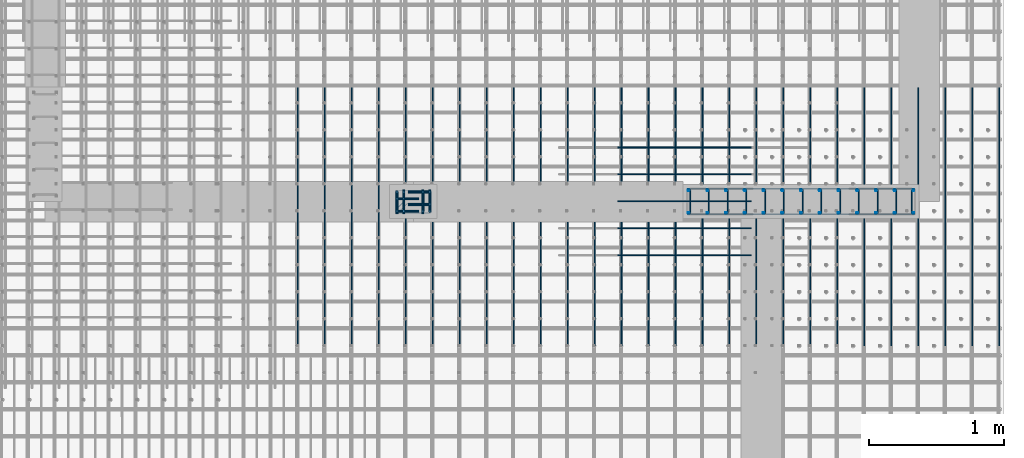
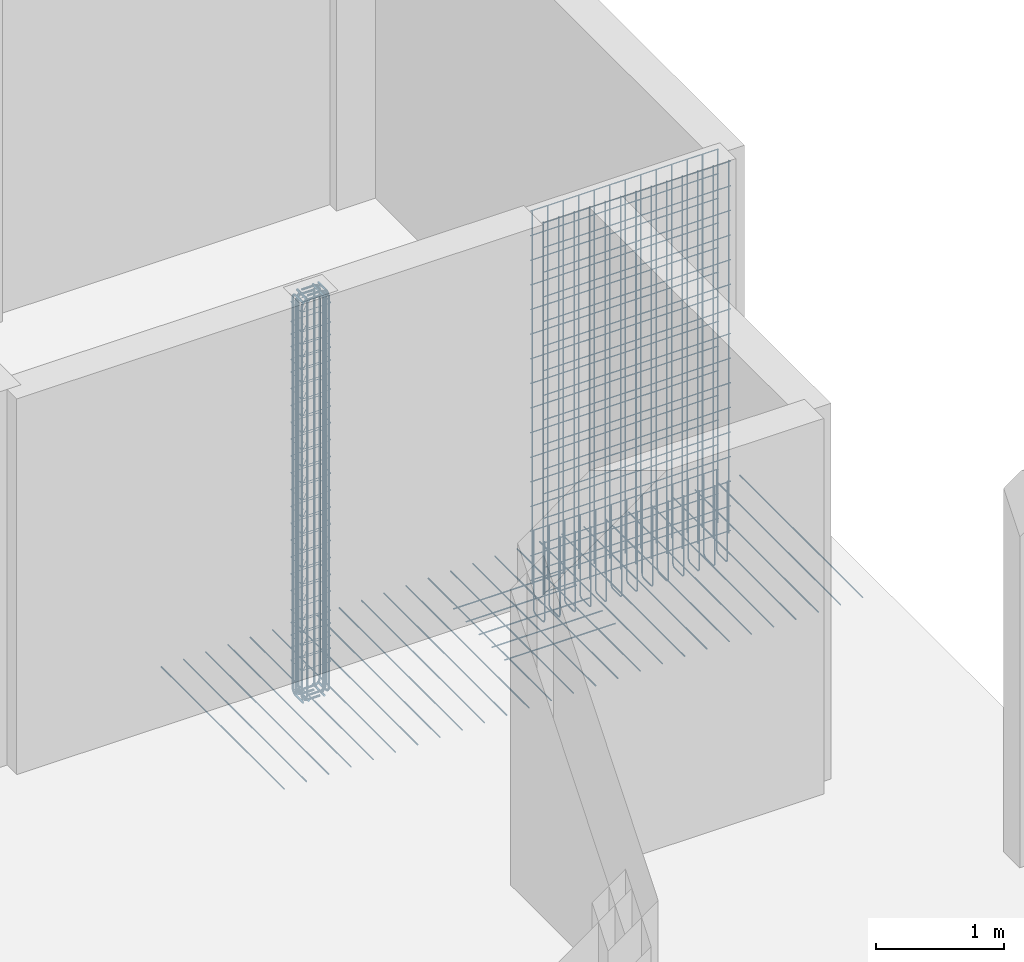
# One storey, part 7 of 8: 8 reinforcing bars.
"""IFC4 building model written with IfcOpenShell, lengths in metres."""

import ifcopenshell
import ifcopenshell.guid

model = None  # the IFC model being written
_history = None  # IfcOwnerHistory: only IFC2X3 demands one
_inside = {}  # id of a spatial element -> (the spatial element, [elements in it])
_under = {}  # id of a project, library or spatial element -> (it, [spatial elements below it])
_declared = {}  # id of a project -> (the project, [libraries it declares])
_typed = {}  # id of a type object -> (the type object, [elements of that type])
_made_of = {}  # id of a material, layer set ... -> (it, [elements and type objects made of it])


def new_model(schema):
    """Start an empty IFC model of exactly this schema.

    Asked for "IFC4X3", IfcOpenShell would pick the latest addendum, in which some entities
    have other attributes; the version numbers below select the first issue.
    IFC2X3 requires an IfcOwnerHistory on every rooted entity: one is made here for all.
    """
    global model, _history
    if schema == "IFC4X3":
        model = ifcopenshell.file(schema_version=(4, 3, 0, 0))
    else:
        model = ifcopenshell.file(schema=schema)
    _inside.clear()
    _under.clear()
    _declared.clear()
    _typed.clear()
    _made_of.clear()
    _history = None
    if model.schema == "IFC2X3":
        org = make("IfcOrganization", Name="unknown")
        user = make(
            "IfcPersonAndOrganization",
            ThePerson=make("IfcPerson", FamilyName="unknown"),
            TheOrganization=org,
        )
        app = make(
            "IfcApplication",
            ApplicationDeveloper=org,
            Version="unknown",
            ApplicationFullName="unknown",
            ApplicationIdentifier="unknown",
        )
        _history = make(
            "IfcOwnerHistory",
            OwningUser=user,
            OwningApplication=app,
            ChangeAction="ADDED",
            CreationDate=0,
        )
    return model


def make(cls, **values):
    """One entity of the class cls with the attributes given. An attribute that is None is left unset."""
    return model.create_entity(
        cls, **{name: value for name, value in values.items() if value is not None}
    )


def entity(cls, *values):
    """Any entity or typed value of the class cls, its attributes in the order of the schema. None: left unset."""
    e = model.create_entity(cls)
    for i, value in enumerate(values):
        if value is not None:
            e[i] = value
    return e


def rooted(cls, **values):
    """An entity with a GlobalId (a new one), such as an element, a storey or a relation."""
    return make(cls, GlobalId=ifcopenshell.guid.new(), OwnerHistory=_history, **values)


def si_unit(unit_type, name, prefix=None):
    """IfcSIUnit, for example si_unit("LENGTHUNIT", "METRE", prefix="MILLI")."""
    return make("IfcSIUnit", UnitType=unit_type, Prefix=prefix, Name=name)


def assignment(units):
    """IfcUnitAssignment: the units of a project."""
    return None if units is None else make("IfcUnitAssignment", Units=units)


def point(xyz):
    """IfcCartesianPoint."""
    return None if xyz is None else make("IfcCartesianPoint", Coordinates=xyz)


def direction(xyz):
    """IfcDirection."""
    return None if xyz is None else make("IfcDirection", DirectionRatios=xyz)


def frame(location, z_axis=None, x_axis=None):
    """IfcAxis2Placement3D, a coordinate frame: its origin and axes. An axis left out is left unset."""
    return make(
        "IfcAxis2Placement3D",
        Location=point(location),
        Axis=direction(z_axis),
        RefDirection=direction(x_axis),
    )


def origin_with_axes():
    """The frame at (0, 0, 0) with the z axis (0, 0, 1) and the x axis (1, 0, 0) written out."""
    return frame((0.0, 0.0, 0.0), z_axis=(0.0, 0.0, 1.0), x_axis=(1.0, 0.0, 0.0))


def place(relative_to, where):
    """IfcLocalPlacement: puts the frame where relative to a parent placement (None: the world)."""
    return make(
        "IfcLocalPlacement", PlacementRelTo=relative_to, RelativePlacement=where
    )


def context(
    kind, dimensions, precision=None, world=None, true_north=None, identifier=None
):
    """IfcGeometricRepresentationContext, for example the 3D "Model" context."""
    return make(
        "IfcGeometricRepresentationContext",
        ContextIdentifier=identifier,
        ContextType=kind,
        CoordinateSpaceDimension=dimensions,
        Precision=precision,
        WorldCoordinateSystem=world,
        TrueNorth=true_north,
    )


def project(units=None, contexts=None):
    """IfcProject with its units and contexts."""
    return rooted(
        "IfcProject",
        Name="project",
        RepresentationContexts=contexts,
        UnitsInContext=assignment(units),
    )


def spatial(cls, under=None, at=None, **own):
    """A site, building, storey or space (cls), placed at a placement, below another one or the project."""
    s = rooted(cls, ObjectPlacement=at, **own)
    if under is not None:
        _under.setdefault(under.id(), (under, []))[1].append(s)
    return s


def shape(context_of_items, identifier, shape_type, items):
    """IfcShapeRepresentation: the items that make up one representation, for example the "Body"."""
    return make(
        "IfcShapeRepresentation",
        ContextOfItems=context_of_items,
        RepresentationIdentifier=identifier,
        RepresentationType=shape_type,
        Items=items,
    )


def source(mapping_origin, context_of_items, identifier, shape_type, items):
    """IfcRepresentationMap: a shape defined once, which mapped items show again and again."""
    return make(
        "IfcRepresentationMap",
        MappingOrigin=mapping_origin,
        MappedRepresentation=shape(context_of_items, identifier, shape_type, items),
    )


def transform(
    local_origin,
    x_axis=None,
    y_axis=None,
    z_axis=None,
    scale=None,
    scale2=None,
    scale3=None,
    uniform=True,
):
    """IfcCartesianTransformationOperator3D, or its non-uniform kind. x_axis, y_axis, z_axis: its Axis1, 2, 3."""
    if uniform:
        return make(
            "IfcCartesianTransformationOperator3D",
            Axis1=direction(x_axis),
            Axis2=direction(y_axis),
            LocalOrigin=point(local_origin),
            Scale=scale,
            Axis3=direction(z_axis),
        )
    return make(
        "IfcCartesianTransformationOperator3DnonUniform",
        Axis1=direction(x_axis),
        Axis2=direction(y_axis),
        LocalOrigin=point(local_origin),
        Scale=scale,
        Axis3=direction(z_axis),
        Scale2=scale2,
        Scale3=scale3,
    )


def mapped(mapping_source, mapping_target):
    """IfcMappedItem: shows the shape of a source again, moved by a transform."""
    return make(
        "IfcMappedItem", MappingSource=mapping_source, MappingTarget=mapping_target
    )


def made_of(thing, what):
    """Note that an element or type object is made of a material, layer set ...; save() writes the relation."""
    if what is not None:
        _made_of.setdefault(what.id(), (what, []))[1].append(thing)
    return thing


def element(
    cls,
    number,
    at=None,
    inside=None,
    cuts=None,
    type_object=None,
    material=None,
    context=None,
    identifier="Body",
    shape_type=None,
    held_by="IfcProductDefinitionShape",
    body=None,
    shapes=None,
    **own,
):
    """One element of the class cls, such as IfcWall. Its Tag is "e" and its number.

    at: its placement. inside: the storey or other place that contains it. cuts: it is an
    opening in that element (IfcRelVoidsElement). A single representation is given by context,
    identifier, shape_type and body (its items); several are given by shapes. held_by: the class
    of the entity that holds the representations. save() writes the other relations.
    """
    e = rooted(cls, Tag="e%d" % number, ObjectPlacement=at, **own)
    if body is not None:
        shapes = [shape(context, identifier, shape_type, body)]
    if shapes is not None:
        e.Representation = make(held_by, Representations=shapes)
    if inside is not None:
        _inside.setdefault(inside.id(), (inside, []))[1].append(e)
    if cuts is not None:
        rooted(
            "IfcRelVoidsElement", RelatingBuildingElement=cuts, RelatedOpeningElement=e
        )
    if type_object is not None:
        _typed.setdefault(type_object.id(), (type_object, []))[1].append(e)
    return made_of(e, material)


def aggregate(whole, parts):
    """IfcRelAggregates: a whole, such as a stair, and the parts it consists of."""
    return rooted("IfcRelAggregates", RelatingObject=whole, RelatedObjects=parts)


def save(model, path):
    """Write the relations noted so far, then the file.

    IfcRelAggregates (storeys below a building ...), IfcRelContainedInSpatialStructure (elements
    in a storey), IfcRelDefinesByType, IfcRelAssociatesMaterial and IfcRelDeclares: one each for
    every whole, place, type object, material and project.
    """
    for whole, parts in _under.values():
        aggregate(whole, parts)
    for where, things in _inside.values():
        rooted(
            "IfcRelContainedInSpatialStructure",
            RelatedElements=things,
            RelatingStructure=where,
        )
    for kind, things in _typed.values():
        rooted("IfcRelDefinesByType", RelatedObjects=things, RelatingType=kind)
    for what, things in _made_of.values():
        rooted("IfcRelAssociatesMaterial", RelatedObjects=things, RelatingMaterial=what)
    for by, libraries in _declared.values():
        rooted("IfcRelDeclares", RelatingContext=by, RelatedDefinitions=libraries)
    model.write(path)


model = new_model("IFC4")

# Units and contexts
model_context = context("Model", 3, precision=1e-05, world=origin_with_axes())
ifc_project = project(units=[si_unit("LENGTHUNIT", "METRE"), si_unit("AREAUNIT", "SQUARE_METRE"), si_unit("VOLUMEUNIT", "CUBIC_METRE"), si_unit("MASSUNIT", "GRAM", prefix="KILO"), si_unit("TIMEUNIT", "SECOND"), si_unit("PLANEANGLEUNIT", "RADIAN"), si_unit("SOLIDANGLEUNIT", "STERADIAN"), si_unit("THERMODYNAMICTEMPERATUREUNIT", "DEGREE_CELSIUS")], contexts=[model_context])

# Site, building, storey
placement_1 = place(None, origin_with_axes())
site = spatial("IfcSite", under=ifc_project, at=placement_1, Name="Italia", CompositionType="ELEMENT")
building = spatial("IfcBuilding", under=site, at=placement_1, Name="Abitazione", CompositionType="ELEMENT")
storey = spatial("IfcBuildingStorey", under=building, at=placement_1, Name="Storey 0", CompositionType="ELEMENT", Elevation=0.0)

# Reinforcing bars
shared_shape_1 = source(origin_with_axes(), model_context, "Body", "AdvancedSweptSolid", [
    entity("IfcSweptDiskSolid", entity("IfcIndexedPolyCurve", entity("IfcCartesianPointList3D", [[14.569, 6.024, 0.0], [14.569, 6.024, 3.545]]), [entity("IfcLineIndex", [1, 2])], False), 0.006),
])
placement_2 = place(placement_1, origin_with_axes())
reinforcing_bar_1_placement = place(placement_2, origin_with_axes())
element("IfcReinforcingBar", 1, at=reinforcing_bar_1_placement, inside=storey, BarLength=3.545, CrossSectionArea=0.0001131, NominalDiameter=0.012, context=model_context, shape_type="MappedRepresentation", body=[
    mapped(shared_shape_1, transform((-0.834001, 0.0, 0.0), x_axis=(1.0, 0.0, 0.0), y_axis=(0.0, 1.0, 0.0), z_axis=(0.0, 0.0, 1.0), scale=1.0)),
    mapped(shared_shape_1, transform((-0.695001, -0.168, 0.0), x_axis=(1.0, 0.0, 0.0), y_axis=(0.0, 1.0, 0.0), z_axis=(0.0, 0.0, 1.0), scale=1.0)),
    mapped(shared_shape_1, transform((-0.417001, -0.168, 0.0), x_axis=(1.0, 0.0, 0.0), y_axis=(0.0, 1.0, 0.0), z_axis=(0.0, 0.0, 1.0), scale=1.0)),
    mapped(shared_shape_1, transform((-0.556001, -0.168, 0.0), x_axis=(1.0, 0.0, 0.0), y_axis=(0.0, 1.0, 0.0), z_axis=(0.0, 0.0, 1.0), scale=1.0)),
    mapped(shared_shape_1, transform((-0.556001, 0.0, 0.0), x_axis=(1.0, 0.0, 0.0), y_axis=(0.0, 1.0, 0.0), z_axis=(0.0, 0.0, 1.0), scale=1.0)),
    mapped(shared_shape_1, transform((-0.695001, 0.0, 0.0), x_axis=(1.0, 0.0, 0.0), y_axis=(0.0, 1.0, 0.0), z_axis=(0.0, 0.0, 1.0), scale=1.0)),
    mapped(shared_shape_1, transform((-0.417001, 0.0, 0.0), x_axis=(1.0, 0.0, 0.0), y_axis=(0.0, 1.0, 0.0), z_axis=(0.0, 0.0, 1.0), scale=1.0)),
    mapped(shared_shape_1, transform((-0.278001, -0.168, 0.0), x_axis=(1.0, 0.0, 0.0), y_axis=(0.0, 1.0, 0.0), z_axis=(0.0, 0.0, 1.0), scale=1.0)),
    mapped(shared_shape_1, transform((0.0, -0.168, 0.0), x_axis=(1.0, 0.0, 0.0), y_axis=(0.0, 1.0, 0.0), z_axis=(0.0, 0.0, 1.0), scale=1.0)),
    mapped(shared_shape_1, transform((-0.139001, -0.168, 0.0), x_axis=(1.0, 0.0, 0.0), y_axis=(0.0, 1.0, 0.0), z_axis=(0.0, 0.0, 1.0), scale=1.0)),
    mapped(shared_shape_1, transform((-0.139001, 0.0, 0.0), x_axis=(1.0, 0.0, 0.0), y_axis=(0.0, 1.0, 0.0), z_axis=(0.0, 0.0, 1.0), scale=1.0)),
    mapped(shared_shape_1, transform((-0.278001, 0.0, 0.0), x_axis=(1.0, 0.0, 0.0), y_axis=(0.0, 1.0, 0.0), z_axis=(0.0, 0.0, 1.0), scale=1.0)),
    mapped(shared_shape_1, transform((0.0, 0.0, 0.0), x_axis=(1.0, 0.0, 0.0), y_axis=(0.0, 1.0, 0.0), z_axis=(0.0, 0.0, 1.0), scale=1.0)),
    mapped(shared_shape_1, transform((-1.668, -0.168, 0.0), x_axis=(1.0, 0.0, 0.0), y_axis=(0.0, 1.0, 0.0), z_axis=(0.0, 0.0, 1.0), scale=1.0)),
    mapped(shared_shape_1, transform((-1.39, -0.168, 0.0), x_axis=(1.0, 0.0, 0.0), y_axis=(0.0, 1.0, 0.0), z_axis=(0.0, 0.0, 1.0), scale=1.0)),
    mapped(shared_shape_1, transform((-1.529, -0.168, 0.0), x_axis=(1.0, 0.0, 0.0), y_axis=(0.0, 1.0, 0.0), z_axis=(0.0, 0.0, 1.0), scale=1.0)),
    mapped(shared_shape_1, transform((-1.529, 0.0, 0.0), x_axis=(1.0, 0.0, 0.0), y_axis=(0.0, 1.0, 0.0), z_axis=(0.0, 0.0, 1.0), scale=1.0)),
    mapped(shared_shape_1, transform((-1.668, 0.0, 0.0), x_axis=(1.0, 0.0, 0.0), y_axis=(0.0, 1.0, 0.0), z_axis=(0.0, 0.0, 1.0), scale=1.0)),
    mapped(shared_shape_1, transform((-1.39, 0.0, 0.0), x_axis=(1.0, 0.0, 0.0), y_axis=(0.0, 1.0, 0.0), z_axis=(0.0, 0.0, 1.0), scale=1.0)),
    mapped(shared_shape_1, transform((-1.251, -0.168, 0.0), x_axis=(1.0, 0.0, 0.0), y_axis=(0.0, 1.0, 0.0), z_axis=(0.0, 0.0, 1.0), scale=1.0)),
    mapped(shared_shape_1, transform((-0.973001, -0.168, 0.0), x_axis=(1.0, 0.0, 0.0), y_axis=(0.0, 1.0, 0.0), z_axis=(0.0, 0.0, 1.0), scale=1.0)),
    mapped(shared_shape_1, transform((-1.112, -0.168, 0.0), x_axis=(1.0, 0.0, 0.0), y_axis=(0.0, 1.0, 0.0), z_axis=(0.0, 0.0, 1.0), scale=1.0)),
    mapped(shared_shape_1, transform((-1.112, 0.0, 0.0), x_axis=(1.0, 0.0, 0.0), y_axis=(0.0, 1.0, 0.0), z_axis=(0.0, 0.0, 1.0), scale=1.0)),
    mapped(shared_shape_1, transform((-1.251, 0.0, 0.0), x_axis=(1.0, 0.0, 0.0), y_axis=(0.0, 1.0, 0.0), z_axis=(0.0, 0.0, 1.0), scale=1.0)),
    mapped(shared_shape_1, transform((-0.973001, 0.0, 0.0), x_axis=(1.0, 0.0, 0.0), y_axis=(0.0, 1.0, 0.0), z_axis=(0.0, 0.0, 1.0), scale=1.0)),
    mapped(shared_shape_1, transform((-0.834001, -0.168, 0.0), x_axis=(1.0, 0.0, 0.0), y_axis=(0.0, 1.0, 0.0), z_axis=(0.0, 0.0, 1.0), scale=1.0)),
])
shared_shape_2 = source(origin_with_axes(), model_context, "Body", "AdvancedSweptSolid", [
    entity("IfcSweptDiskSolid", entity("IfcIndexedPolyCurve", entity("IfcCartesianPointList3D", [[14.557, 6.024, 0.5], [14.557, 6.024, -0.245], [14.557, 6.02172, -0.256481], [14.557, 6.01521, -0.266213], [14.557, 6.00548, -0.272716], [14.557, 5.994, -0.275], [14.557, 5.924, -0.275]]), [entity("IfcLineIndex", [1, 2]), entity("IfcLineIndex", [2, 3]), entity("IfcLineIndex", [3, 4]), entity("IfcLineIndex", [4, 5]), entity("IfcLineIndex", [5, 6]), entity("IfcLineIndex", [6, 7])], False), 0.006),
])
reinforcing_bar_2_placement = place(placement_2, origin_with_axes())
element("IfcReinforcingBar", 2, at=reinforcing_bar_2_placement, inside=storey, BarLength=0.861822, CrossSectionArea=0.0001131, NominalDiameter=0.012, context=model_context, shape_type="MappedRepresentation", body=[
    mapped(shared_shape_2, transform((-0.809999, 0.0, 0.0), x_axis=(1.0, 0.0, 0.0), y_axis=(0.0, 1.0, 0.0), z_axis=(0.0, 0.0, 1.0), scale=1.0)),
    mapped(shared_shape_2, transform((28.443, 11.88, 0.0), x_axis=(-1.0, 0.0, 0.0), y_axis=(0.0, -1.0, 0.0), z_axis=(0.0, 0.0, 1.0), scale=1.0)),
    mapped(shared_shape_2, transform((28.721, 11.88, 0.0), x_axis=(-1.0, 0.0, 0.0), y_axis=(0.0, -1.0, 0.0), z_axis=(0.0, 0.0, 1.0), scale=1.0)),
    mapped(shared_shape_2, transform((28.582, 11.88, 0.0), x_axis=(-1.0, 0.0, 0.0), y_axis=(0.0, -1.0, 0.0), z_axis=(0.0, 0.0, 1.0), scale=1.0)),
    mapped(shared_shape_2, transform((-0.532, 0.0, 0.0), x_axis=(1.0, 0.0, 0.0), y_axis=(0.0, 1.0, 0.0), z_axis=(0.0, 0.0, 1.0), scale=1.0)),
    mapped(shared_shape_2, transform((-0.671, 0.0, 0.0), x_axis=(1.0, 0.0, 0.0), y_axis=(0.0, 1.0, 0.0), z_axis=(0.0, 0.0, 1.0), scale=1.0)),
    mapped(shared_shape_2, transform((-0.393, 0.0, 0.0), x_axis=(1.0, 0.0, 0.0), y_axis=(0.0, 1.0, 0.0), z_axis=(0.0, 0.0, 1.0), scale=1.0)),
    mapped(shared_shape_2, transform((28.86, 11.88, 0.0), x_axis=(-1.0, 0.0, 0.0), y_axis=(0.0, -1.0, 0.0), z_axis=(0.0, 0.0, 1.0), scale=1.0)),
    mapped(shared_shape_2, transform((29.114, 11.88, 0.0), x_axis=(-1.0, 0.0, 0.0), y_axis=(0.0, -1.0, 0.0), z_axis=(0.0, 0.0, 1.0), scale=1.0)),
    mapped(shared_shape_2, transform((28.999, 11.88, 0.0), x_axis=(-1.0, 0.0, 0.0), y_axis=(0.0, -1.0, 0.0), z_axis=(0.0, 0.0, 1.0), scale=1.0)),
    mapped(shared_shape_2, transform((-0.115, 0.0, 0.0), x_axis=(1.0, 0.0, 0.0), y_axis=(0.0, 1.0, 0.0), z_axis=(0.0, 0.0, 1.0), scale=1.0)),
    mapped(shared_shape_2, transform((-0.254, 0.0, 0.0), x_axis=(1.0, 0.0, 0.0), y_axis=(0.0, 1.0, 0.0), z_axis=(0.0, 0.0, 1.0), scale=1.0)),
    mapped(shared_shape_2, transform((0.0, 0.0, 0.0), x_axis=(1.0, 0.0, 0.0), y_axis=(0.0, 1.0, 0.0), z_axis=(0.0, 0.0, 1.0), scale=1.0)),
    mapped(shared_shape_2, transform((27.47, 11.88, 0.0), x_axis=(-1.0, 0.0, 0.0), y_axis=(0.0, -1.0, 0.0), z_axis=(0.0, 0.0, 1.0), scale=1.0)),
    mapped(shared_shape_2, transform((27.748, 11.88, 0.0), x_axis=(-1.0, 0.0, 0.0), y_axis=(0.0, -1.0, 0.0), z_axis=(0.0, 0.0, 1.0), scale=1.0)),
    mapped(shared_shape_2, transform((27.609, 11.88, 0.0), x_axis=(-1.0, 0.0, 0.0), y_axis=(0.0, -1.0, 0.0), z_axis=(0.0, 0.0, 1.0), scale=1.0)),
    mapped(shared_shape_2, transform((-1.505, 0.0, 0.0), x_axis=(1.0, 0.0, 0.0), y_axis=(0.0, 1.0, 0.0), z_axis=(0.0, 0.0, 1.0), scale=1.0)),
    mapped(shared_shape_2, transform((-1.644, 0.0, 0.0), x_axis=(1.0, 0.0, 0.0), y_axis=(0.0, 1.0, 0.0), z_axis=(0.0, 0.0, 1.0), scale=1.0)),
    mapped(shared_shape_2, transform((-1.366, 0.0, 0.0), x_axis=(1.0, 0.0, 0.0), y_axis=(0.0, 1.0, 0.0), z_axis=(0.0, 0.0, 1.0), scale=1.0)),
    mapped(shared_shape_2, transform((27.887, 11.88, 0.0), x_axis=(-1.0, 0.0, 0.0), y_axis=(0.0, -1.0, 0.0), z_axis=(0.0, 0.0, 1.0), scale=1.0)),
    mapped(shared_shape_2, transform((28.165, 11.88, 0.0), x_axis=(-1.0, 0.0, 0.0), y_axis=(0.0, -1.0, 0.0), z_axis=(0.0, 0.0, 1.0), scale=1.0)),
    mapped(shared_shape_2, transform((28.026, 11.88, 0.0), x_axis=(-1.0, 0.0, 0.0), y_axis=(0.0, -1.0, 0.0), z_axis=(0.0, 0.0, 1.0), scale=1.0)),
    mapped(shared_shape_2, transform((-1.088, 0.0, 0.0), x_axis=(1.0, 0.0, 0.0), y_axis=(0.0, 1.0, 0.0), z_axis=(0.0, 0.0, 1.0), scale=1.0)),
    mapped(shared_shape_2, transform((-1.227, 0.0, 0.0), x_axis=(1.0, 0.0, 0.0), y_axis=(0.0, 1.0, 0.0), z_axis=(0.0, 0.0, 1.0), scale=1.0)),
    mapped(shared_shape_2, transform((-0.948999, 0.0, 0.0), x_axis=(1.0, 0.0, 0.0), y_axis=(0.0, 1.0, 0.0), z_axis=(0.0, 0.0, 1.0), scale=1.0)),
    mapped(shared_shape_2, transform((28.304, 11.88, 0.0), x_axis=(-1.0, 0.0, 0.0), y_axis=(0.0, -1.0, 0.0), z_axis=(0.0, 0.0, 1.0), scale=1.0)),
])
shared_shape_3 = source(origin_with_axes(), model_context, "Body", "AdvancedSweptSolid", [
    entity("IfcSweptDiskSolid", entity("IfcIndexedPolyCurve", entity("IfcCartesianPointList3D", [[14.58, 5.845, 0.03], [12.89, 5.845, 0.03]]), [entity("IfcLineIndex", [1, 2])], False), 0.005),
])
reinforcing_bar_3_placement = place(placement_2, origin_with_axes())
element("IfcReinforcingBar", 3, at=reinforcing_bar_3_placement, inside=storey, BarLength=1.69, CrossSectionArea=7.854e-05, NominalDiameter=0.01, context=model_context, shape_type="MappedRepresentation", body=[
    mapped(shared_shape_3, transform((0.0, 0.0, 2.34), x_axis=(1.0, 0.0, 0.0), y_axis=(0.0, 1.0, 0.0), z_axis=(0.0, 0.0, 1.0), scale=1.0)),
    mapped(shared_shape_3, transform((0.0, 0.0, 2.574), x_axis=(1.0, 0.0, 0.0), y_axis=(0.0, 1.0, 0.0), z_axis=(0.0, 0.0, 1.0), scale=1.0)),
    mapped(shared_shape_3, transform((0.0, 0.0, 1.872), x_axis=(1.0, 0.0, 0.0), y_axis=(0.0, 1.0, 0.0), z_axis=(0.0, 0.0, 1.0), scale=1.0)),
    mapped(shared_shape_3, transform((0.0, 0.0, 2.106), x_axis=(1.0, 0.0, 0.0), y_axis=(0.0, 1.0, 0.0), z_axis=(0.0, 0.0, 1.0), scale=1.0)),
    mapped(shared_shape_3, transform((0.0, 0.0, 3.276), x_axis=(1.0, 0.0, 0.0), y_axis=(0.0, 1.0, 0.0), z_axis=(0.0, 0.0, 1.0), scale=1.0)),
    mapped(shared_shape_3, transform((0.0, 0.0, 3.51), x_axis=(1.0, 0.0, 0.0), y_axis=(0.0, 1.0, 0.0), z_axis=(0.0, 0.0, 1.0), scale=1.0)),
    mapped(shared_shape_3, transform((0.0, 0.0, 2.808), x_axis=(1.0, 0.0, 0.0), y_axis=(0.0, 1.0, 0.0), z_axis=(0.0, 0.0, 1.0), scale=1.0)),
    mapped(shared_shape_3, transform((0.0, 0.0, 3.042), x_axis=(1.0, 0.0, 0.0), y_axis=(0.0, 1.0, 0.0), z_axis=(0.0, 0.0, 1.0), scale=1.0)),
    mapped(shared_shape_3, transform((0.0, 0.0, 0.468), x_axis=(1.0, 0.0, 0.0), y_axis=(0.0, 1.0, 0.0), z_axis=(0.0, 0.0, 1.0), scale=1.0)),
    mapped(shared_shape_3, transform((0.0, 0.0, 0.702), x_axis=(1.0, 0.0, 0.0), y_axis=(0.0, 1.0, 0.0), z_axis=(0.0, 0.0, 1.0), scale=1.0)),
    mapped(shared_shape_3, transform((27.47, 11.88, 0.0), x_axis=(-1.0, 0.0, 0.0), y_axis=(0.0, -1.0, 0.0), z_axis=(0.0, 0.0, 1.0), scale=1.0)),
    mapped(shared_shape_3, transform((0.0, 0.0, 0.0), x_axis=(1.0, 0.0, 0.0), y_axis=(0.0, 1.0, 0.0), z_axis=(0.0, 0.0, 1.0), scale=1.0)),
    mapped(shared_shape_3, transform((27.47, 11.88, 0.234), x_axis=(-1.0, 0.0, 0.0), y_axis=(0.0, -1.0, 0.0), z_axis=(0.0, 0.0, 1.0), scale=1.0)),
    mapped(shared_shape_3, transform((0.0, 0.0, 0.234), x_axis=(1.0, 0.0, 0.0), y_axis=(0.0, 1.0, 0.0), z_axis=(0.0, 0.0, 1.0), scale=1.0)),
    mapped(shared_shape_3, transform((27.47, 11.88, 0.468), x_axis=(-1.0, 0.0, 0.0), y_axis=(0.0, -1.0, 0.0), z_axis=(0.0, 0.0, 1.0), scale=1.0)),
    mapped(shared_shape_3, transform((27.47, 11.88, 0.702), x_axis=(-1.0, 0.0, 0.0), y_axis=(0.0, -1.0, 0.0), z_axis=(0.0, 0.0, 1.0), scale=1.0)),
    mapped(shared_shape_3, transform((0.0, 0.0, 1.404), x_axis=(1.0, 0.0, 0.0), y_axis=(0.0, 1.0, 0.0), z_axis=(0.0, 0.0, 1.0), scale=1.0)),
    mapped(shared_shape_3, transform((0.0, 0.0, 1.638), x_axis=(1.0, 0.0, 0.0), y_axis=(0.0, 1.0, 0.0), z_axis=(0.0, 0.0, 1.0), scale=1.0)),
    mapped(shared_shape_3, transform((27.47, 11.88, 0.936), x_axis=(-1.0, 0.0, 0.0), y_axis=(0.0, -1.0, 0.0), z_axis=(0.0, 0.0, 1.0), scale=1.0)),
    mapped(shared_shape_3, transform((0.0, 0.0, 0.936), x_axis=(1.0, 0.0, 0.0), y_axis=(0.0, 1.0, 0.0), z_axis=(0.0, 0.0, 1.0), scale=1.0)),
    mapped(shared_shape_3, transform((27.47, 11.88, 1.17), x_axis=(-1.0, 0.0, 0.0), y_axis=(0.0, -1.0, 0.0), z_axis=(0.0, 0.0, 1.0), scale=1.0)),
    mapped(shared_shape_3, transform((0.0, 0.0, 1.17), x_axis=(1.0, 0.0, 0.0), y_axis=(0.0, 1.0, 0.0), z_axis=(0.0, 0.0, 1.0), scale=1.0)),
    mapped(shared_shape_3, transform((27.47, 11.88, 2.34), x_axis=(-1.0, 0.0, 0.0), y_axis=(0.0, -1.0, 0.0), z_axis=(0.0, 0.0, 1.0), scale=1.0)),
    mapped(shared_shape_3, transform((27.47, 11.88, 2.574), x_axis=(-1.0, 0.0, 0.0), y_axis=(0.0, -1.0, 0.0), z_axis=(0.0, 0.0, 1.0), scale=1.0)),
    mapped(shared_shape_3, transform((27.47, 11.88, 1.872), x_axis=(-1.0, 0.0, 0.0), y_axis=(0.0, -1.0, 0.0), z_axis=(0.0, 0.0, 1.0), scale=1.0)),
    mapped(shared_shape_3, transform((27.47, 11.88, 2.106), x_axis=(-1.0, 0.0, 0.0), y_axis=(0.0, -1.0, 0.0), z_axis=(0.0, 0.0, 1.0), scale=1.0)),
    mapped(shared_shape_3, transform((27.47, 11.88, 3.276), x_axis=(-1.0, 0.0, 0.0), y_axis=(0.0, -1.0, 0.0), z_axis=(0.0, 0.0, 1.0), scale=1.0)),
    mapped(shared_shape_3, transform((27.47, 11.88, 3.51), x_axis=(-1.0, 0.0, 0.0), y_axis=(0.0, -1.0, 0.0), z_axis=(0.0, 0.0, 1.0), scale=1.0)),
    mapped(shared_shape_3, transform((27.47, 11.88, 2.808), x_axis=(-1.0, 0.0, 0.0), y_axis=(0.0, -1.0, 0.0), z_axis=(0.0, 0.0, 1.0), scale=1.0)),
    mapped(shared_shape_3, transform((27.47, 11.88, 3.042), x_axis=(-1.0, 0.0, 0.0), y_axis=(0.0, -1.0, 0.0), z_axis=(0.0, 0.0, 1.0), scale=1.0)),
    mapped(shared_shape_3, transform((27.47, 11.88, 1.404), x_axis=(-1.0, 0.0, 0.0), y_axis=(0.0, -1.0, 0.0), z_axis=(0.0, 0.0, 1.0), scale=1.0)),
    mapped(shared_shape_3, transform((27.47, 11.88, 1.638), x_axis=(-1.0, 0.0, 0.0), y_axis=(0.0, -1.0, 0.0), z_axis=(0.0, 0.0, 1.0), scale=1.0)),
])
shared_shape_4 = source(origin_with_axes(), model_context, "Body", "AdvancedSweptSolid", [
    entity("IfcSweptDiskSolid", entity("IfcIndexedPolyCurve", entity("IfcCartesianPointList3D", [[10.901, 5.869, -0.265], [10.789, 5.869, -0.265], [10.7699, 5.869, -0.261194], [10.7536, 5.869, -0.250355], [10.7428, 5.869, -0.234134], [10.739, 5.869, -0.215], [10.739, 5.869, 0.8175]]), [entity("IfcLineIndex", [1, 2]), entity("IfcLineIndex", [2, 3]), entity("IfcLineIndex", [3, 4]), entity("IfcLineIndex", [4, 5]), entity("IfcLineIndex", [5, 6]), entity("IfcLineIndex", [6, 7])], False), 0.01),
])
reinforcing_bar_4_placement = place(placement_2, origin_with_axes())
element("IfcReinforcingBar", 4, at=reinforcing_bar_4_placement, inside=storey, BarLength=1.22254, CrossSectionArea=0.00031416, NominalDiameter=0.02, context=model_context, shape_type="MappedRepresentation", body=[
    mapped(shared_shape_4, transform((21.72, 11.788, 0.0), x_axis=(-1.0, 0.0, 0.0), y_axis=(0.0, -1.0, 0.0), z_axis=(0.0, 0.0, 1.0), scale=1.0)),
    mapped(shared_shape_4, transform((21.72, 11.88, 0.0), x_axis=(-1.0, 0.0, 0.0), y_axis=(0.0, -1.0, 0.0), z_axis=(0.0, 0.0, 1.0), scale=1.0)),
    mapped(shared_shape_4, transform((16.8, -4.87, 0.0), x_axis=(0.0, 1.0, 0.0), y_axis=(-1.0, 0.0, 0.0), z_axis=(0.0, 0.0, 1.0), scale=1.0)),
    mapped(shared_shape_4, transform((16.85, -4.87, 0.0), x_axis=(0.0, 1.0, 0.0), y_axis=(-1.0, 0.0, 0.0), z_axis=(0.0, 0.0, 1.0), scale=1.0)),
    mapped(shared_shape_4, transform((0.0, 0.0, 0.0), x_axis=(1.0, 0.0, 0.0), y_axis=(0.0, 1.0, 0.0), z_axis=(0.0, 0.0, 1.0), scale=1.0)),
    mapped(shared_shape_4, transform((16.658, -4.87, 0.0), x_axis=(0.0, 1.0, 0.0), y_axis=(-1.0, 0.0, 0.0), z_axis=(0.0, 0.0, 1.0), scale=1.0)),
    mapped(shared_shape_4, transform((4.87, 16.75, 0.0), x_axis=(0.0, -1.0, 0.0), y_axis=(1.0, 0.0, 0.0), z_axis=(0.0, 0.0, 1.0), scale=1.0)),
    mapped(shared_shape_4, transform((0.0, 0.092, 0.0), x_axis=(1.0, 0.0, 0.0), y_axis=(0.0, 1.0, 0.0), z_axis=(0.0, 0.0, 1.0), scale=1.0)),
    mapped(shared_shape_4, transform((5.062, 16.75, 0.0), x_axis=(0.0, -1.0, 0.0), y_axis=(1.0, 0.0, 0.0), z_axis=(0.0, 0.0, 1.0), scale=1.0)),
    mapped(shared_shape_4, transform((4.92, 16.75, 0.0), x_axis=(0.0, -1.0, 0.0), y_axis=(1.0, 0.0, 0.0), z_axis=(0.0, 0.0, 1.0), scale=1.0)),
])
shared_shape_5 = source(origin_with_axes(), model_context, "Body", "AdvancedSweptSolid", [
    entity("IfcSweptDiskSolid", entity("IfcIndexedPolyCurve", entity("IfcCartesianPointList3D", [[10.739, 5.869, 0.0], [10.739, 5.869, 3.485], [10.7428, 5.869, 3.50413], [10.7536, 5.869, 3.52036], [10.7699, 5.869, 3.53119], [10.789, 5.869, 3.535], [10.901, 5.869, 3.535]]), [entity("IfcLineIndex", [1, 2]), entity("IfcLineIndex", [2, 3]), entity("IfcLineIndex", [3, 4]), entity("IfcLineIndex", [4, 5]), entity("IfcLineIndex", [5, 6]), entity("IfcLineIndex", [6, 7])], False), 0.01),
])
reinforcing_bar_5_placement = place(placement_2, origin_with_axes())
element("IfcReinforcingBar", 5, at=reinforcing_bar_5_placement, inside=storey, BarLength=3.67504, CrossSectionArea=0.00031416, NominalDiameter=0.02, context=model_context, shape_type="MappedRepresentation", body=[
    mapped(shared_shape_5, transform((21.72, 11.788, 0.0), x_axis=(-1.0, 0.0, 0.0), y_axis=(0.0, -1.0, 0.0), z_axis=(0.0, 0.0, 1.0), scale=1.0)),
    mapped(shared_shape_5, transform((21.72, 11.88, 0.0), x_axis=(-1.0, 0.0, 0.0), y_axis=(0.0, -1.0, 0.0), z_axis=(0.0, 0.0, 1.0), scale=1.0)),
    mapped(shared_shape_5, transform((16.8, -4.87, 0.0), x_axis=(0.0, 1.0, 0.0), y_axis=(-1.0, 0.0, 0.0), z_axis=(0.0, 0.0, 1.0), scale=1.0)),
    mapped(shared_shape_5, transform((16.85, -4.87, 0.0), x_axis=(0.0, 1.0, 0.0), y_axis=(-1.0, 0.0, 0.0), z_axis=(0.0, 0.0, 1.0), scale=1.0)),
    mapped(shared_shape_5, transform((0.0, 0.0, 0.0), x_axis=(1.0, 0.0, 0.0), y_axis=(0.0, 1.0, 0.0), z_axis=(0.0, 0.0, 1.0), scale=1.0)),
    mapped(shared_shape_5, transform((16.658, -4.87, 0.0), x_axis=(0.0, 1.0, 0.0), y_axis=(-1.0, 0.0, 0.0), z_axis=(0.0, 0.0, 1.0), scale=1.0)),
    mapped(shared_shape_5, transform((4.87, 16.75, 0.0), x_axis=(0.0, -1.0, 0.0), y_axis=(1.0, 0.0, 0.0), z_axis=(0.0, 0.0, 1.0), scale=1.0)),
    mapped(shared_shape_5, transform((0.0, 0.0920005, 0.0), x_axis=(1.0, 0.0, 0.0), y_axis=(0.0, 1.0, 0.0), z_axis=(0.0, 0.0, 1.0), scale=1.0)),
    mapped(shared_shape_5, transform((5.062, 16.75, 0.0), x_axis=(0.0, -1.0, 0.0), y_axis=(1.0, 0.0, 0.0), z_axis=(0.0, 0.0, 1.0), scale=1.0)),
    mapped(shared_shape_5, transform((4.92, 16.75, 0.0), x_axis=(0.0, -1.0, 0.0), y_axis=(1.0, 0.0, 0.0), z_axis=(0.0, 0.0, 1.0), scale=1.0)),
])
shared_shape_6 = source(origin_with_axes(), model_context, "Body", "AdvancedSweptSolid", [
    entity("IfcSweptDiskSolid", entity("IfcIndexedPolyCurve", entity("IfcCartesianPointList3D", [[10.8162, 5.92671, 0.041], [10.7484, 5.85893, 0.040347], [10.7414, 5.856, 0.0402948], [10.736, 5.856, 0.0402583], [10.7322, 5.85676, 0.0402318], [10.7289, 5.85893, 0.0402052], [10.7268, 5.86217, 0.0401786], [10.726, 5.866, 0.040152], [10.726, 6.014, 0.0391438], [10.7268, 6.01783, 0.0391172], [10.7289, 6.02107, 0.0390906], [10.7322, 6.02324, 0.039064], [10.736, 6.024, 0.0390375], [10.984, 6.024, 0.037348], [10.9878, 6.02324, 0.0373214], [10.9911, 6.02107, 0.0372948], [10.9932, 6.01783, 0.0372683], [10.994, 6.014, 0.0372417], [10.994, 5.866, 0.0362334], [10.9932, 5.86217, 0.0362069], [10.9911, 5.85893, 0.0361803], [10.9878, 5.85676, 0.0361537], [10.984, 5.856, 0.0361271], [10.736, 5.856, 0.0344377], [10.7322, 5.85676, 0.0344111], [10.7289, 5.85893, 0.0343845], [10.7268, 5.86217, 0.0343579], [10.726, 5.866, 0.0343313], [10.726, 5.87136, 0.0342948], [10.7289, 5.87843, 0.0342427], [10.7967, 5.94621, 0.0335897]]), [entity("IfcLineIndex", [1, 2]), entity("IfcLineIndex", [2, 3]), entity("IfcLineIndex", [3, 4]), entity("IfcLineIndex", [4, 5]), entity("IfcLineIndex", [5, 6]), entity("IfcLineIndex", [6, 7]), entity("IfcLineIndex", [7, 8]), entity("IfcLineIndex", [8, 9]), entity("IfcLineIndex", [9, 10]), entity("IfcLineIndex", [10, 11]), entity("IfcLineIndex", [11, 12]), entity("IfcLineIndex", [12, 13]), entity("IfcLineIndex", [13, 14]), entity("IfcLineIndex", [14, 15]), entity("IfcLineIndex", [15, 16]), entity("IfcLineIndex", [16, 17]), entity("IfcLineIndex", [17, 18]), entity("IfcLineIndex", [18, 19]), entity("IfcLineIndex", [19, 20]), entity("IfcLineIndex", [20, 21]), entity("IfcLineIndex", [21, 22]), entity("IfcLineIndex", [22, 23]), entity("IfcLineIndex", [23, 24]), entity("IfcLineIndex", [24, 25]), entity("IfcLineIndex", [25, 26]), entity("IfcLineIndex", [26, 27]), entity("IfcLineIndex", [27, 28]), entity("IfcLineIndex", [28, 29]), entity("IfcLineIndex", [29, 30]), entity("IfcLineIndex", [30, 31])], False), 0.003),
])
reinforcing_bar_6_placement = place(placement_2, origin_with_axes())
element("IfcReinforcingBar", 6, at=reinforcing_bar_6_placement, inside=storey, BarLength=1.0878, CrossSectionArea=2.8274e-05, NominalDiameter=0.006, context=model_context, shape_type="MappedRepresentation", body=[
    mapped(shared_shape_6, transform((0.0, 0.0, 1.14191), x_axis=(1.0, 0.0, 1.79629e-05), y_axis=(0.0, 1.0, -1.79082e-05), z_axis=(-1.79629e-05, 1.79082e-05, 1.0), scale=1.0)),
    mapped(shared_shape_6, transform((0.0, 0.0, 0.981912), x_axis=(1.0, 0.0, 1.79629e-05), y_axis=(0.0, 1.0, -1.79082e-05), z_axis=(-1.79629e-05, 1.79082e-05, 1.0), scale=1.0)),
    mapped(shared_shape_6, transform((0.0, 0.0, 0.821982), x_axis=(1.0, 0.0, 0.0), y_axis=(0.0, 1.0, 0.0), z_axis=(0.0, 0.0, 1.0), scale=1.0)),
    mapped(shared_shape_6, transform((0.0, 0.0, 1.62191), x_axis=(1.0, 0.0, 1.79629e-05), y_axis=(0.0, 1.0, -1.79082e-05), z_axis=(-1.79629e-05, 1.79082e-05, 1.0), scale=1.0)),
    mapped(shared_shape_6, transform((0.0, 0.0, 1.46191), x_axis=(1.0, 0.0, 1.79629e-05), y_axis=(0.0, 1.0, -1.79082e-05), z_axis=(-1.79629e-05, 1.79082e-05, 1.0), scale=1.0)),
    mapped(shared_shape_6, transform((0.0, 0.0, 1.30191), x_axis=(1.0, 0.0, 1.79629e-05), y_axis=(0.0, 1.0, -1.79082e-05), z_axis=(-1.79629e-05, 1.79082e-05, 1.0), scale=1.0)),
    mapped(shared_shape_6, transform((0.0, 0.0, 0.240017), x_axis=(1.0, 0.0, 0.0), y_axis=(0.0, 1.0, 0.0), z_axis=(0.0, 0.0, 1.0), scale=1.0)),
    mapped(shared_shape_6, transform((0.0, 0.0, 0.12), x_axis=(1.0, 0.0, 0.0), y_axis=(0.0, 1.0, 0.0), z_axis=(0.0, 0.0, 1.0), scale=1.0)),
    mapped(shared_shape_6, transform((0.0, 0.0, 0.0), x_axis=(1.0, 0.0, 0.0), y_axis=(0.0, 1.0, 0.0), z_axis=(0.0, 0.0, 1.0), scale=1.0)),
    mapped(shared_shape_6, transform((0.0, 0.0, 0.661982), x_axis=(1.0, 0.0, 0.0), y_axis=(0.0, 1.0, 0.0), z_axis=(0.0, 0.0, 1.0), scale=1.0)),
    mapped(shared_shape_6, transform((0.0, 0.0, 0.479982), x_axis=(1.0, 0.0, 0.0), y_axis=(0.0, 1.0, 0.0), z_axis=(0.0, 0.0, 1.0), scale=1.0)),
    mapped(shared_shape_6, transform((0.0, 0.0, 0.360017), x_axis=(1.0, 0.0, 0.0), y_axis=(0.0, 1.0, 0.0), z_axis=(0.0, 0.0, 1.0), scale=1.0)),
    mapped(shared_shape_6, transform((0.0, 0.0, 2.97991), x_axis=(1.0, 0.0, 1.79629e-05), y_axis=(0.0, 1.0, -1.79082e-05), z_axis=(-1.79629e-05, 1.79082e-05, 1.0), scale=1.0)),
    mapped(shared_shape_6, transform((0.0, 0.0, 2.85991), x_axis=(1.0, 0.0, 1.79629e-05), y_axis=(0.0, 1.0, -1.79082e-05), z_axis=(-1.79629e-05, 1.79082e-05, 1.0), scale=1.0)),
    mapped(shared_shape_6, transform((0.0, 0.0, 2.73991), x_axis=(1.0, 0.0, 1.79629e-05), y_axis=(0.0, 1.0, -1.79082e-05), z_axis=(-1.79629e-05, 1.79082e-05, 1.0), scale=1.0)),
    mapped(shared_shape_6, transform((0.0, 0.0, 3.40691), x_axis=(1.0, 0.0, 1.79629e-05), y_axis=(0.0, 1.0, -1.79082e-05), z_axis=(-1.79629e-05, 1.79082e-05, 1.0), scale=1.0)),
    mapped(shared_shape_6, transform((0.0, 0.0, 3.21991), x_axis=(1.0, 0.0, 1.79629e-05), y_axis=(0.0, 1.0, -1.79082e-05), z_axis=(-1.79629e-05, 1.79082e-05, 1.0), scale=1.0)),
    mapped(shared_shape_6, transform((0.0, 0.0, 3.09991), x_axis=(1.0, 0.0, 1.79629e-05), y_axis=(0.0, 1.0, -1.79082e-05), z_axis=(-1.79629e-05, 1.79082e-05, 1.0), scale=1.0)),
    mapped(shared_shape_6, transform((0.0, 0.0, 2.10191), x_axis=(1.0, 0.0, 1.79629e-05), y_axis=(0.0, 1.0, -1.79082e-05), z_axis=(-1.79629e-05, 1.79082e-05, 1.0), scale=1.0)),
    mapped(shared_shape_6, transform((0.0, 0.0, 1.94191), x_axis=(1.0, 0.0, 1.79629e-05), y_axis=(0.0, 1.0, -1.79082e-05), z_axis=(-1.79629e-05, 1.79082e-05, 1.0), scale=1.0)),
    mapped(shared_shape_6, transform((0.0, 0.0, 1.78191), x_axis=(1.0, 0.0, 1.79629e-05), y_axis=(0.0, 1.0, -1.79082e-05), z_axis=(-1.79629e-05, 1.79082e-05, 1.0), scale=1.0)),
    mapped(shared_shape_6, transform((0.0, 0.0, 2.58191), x_axis=(1.0, 0.0, 1.79629e-05), y_axis=(0.0, 1.0, -1.79082e-05), z_axis=(-1.79629e-05, 1.79082e-05, 1.0), scale=1.0)),
    mapped(shared_shape_6, transform((0.0, 0.0, 2.42191), x_axis=(1.0, 0.0, 1.79629e-05), y_axis=(0.0, 1.0, -1.79082e-05), z_axis=(-1.79629e-05, 1.79082e-05, 1.0), scale=1.0)),
    mapped(shared_shape_6, transform((0.0, 0.0, 2.26191), x_axis=(1.0, 0.0, 1.79629e-05), y_axis=(0.0, 1.0, -1.79082e-05), z_axis=(-1.79629e-05, 1.79082e-05, 1.0), scale=1.0)),
])
shared_shape_7 = source(origin_with_axes(), model_context, "Body", "AdvancedSweptSolid", [
    entity("IfcSweptDiskSolid", entity("IfcIndexedPolyCurve", entity("IfcCartesianPointList3D", [[12.3722, 5.54149, -0.246], [13.3681, 5.54149, -0.246]]), [entity("IfcLineIndex", [1, 2])], False), 0.006),
])
reinforcing_bar_7_placement = place(placement_2, origin_with_axes())
element("IfcReinforcingBar", 7, at=reinforcing_bar_7_placement, inside=storey, BarLength=0.995909, CrossSectionArea=0.0001131, NominalDiameter=0.012, context=model_context, shape_type="MappedRepresentation", body=[
    mapped(shared_shape_7, transform((0.0, 0.0, 0.0), x_axis=(1.0, 0.0, 0.0), y_axis=(0.0, 1.0, 0.0), z_axis=(0.0, 0.0, 1.0), scale=1.0)),
    mapped(shared_shape_7, transform((0.0, 0.2, 0.0), x_axis=(1.0, 0.0, 0.0), y_axis=(0.0, 1.0, 0.0), z_axis=(0.0, 0.0, 1.0), scale=1.0)),
    mapped(shared_shape_7, transform((0.0, 0.4, 0.0), x_axis=(1.0, 0.0, 0.0), y_axis=(0.0, 1.0, 0.0), z_axis=(0.0, 0.0, 1.0), scale=1.0)),
    mapped(shared_shape_7, transform((0.0, 0.599999, 0.0), x_axis=(1.0, 0.0, 0.0), y_axis=(0.0, 1.0, 0.0), z_axis=(0.0, 0.0, 1.0), scale=1.0)),
    mapped(shared_shape_7, transform((0.0, 0.799999, 0.0), x_axis=(1.0, 0.0, 0.0), y_axis=(0.0, 1.0, 0.0), z_axis=(0.0, 0.0, 1.0), scale=1.0)),
])
shared_shape_8 = source(origin_with_axes(), model_context, "Body", "AdvancedSweptSolid", [
    entity("IfcSweptDiskSolid", entity("IfcIndexedPolyCurve", entity("IfcCartesianPointList3D", [[10.0039, 4.86935, -0.234], [10.0039, 6.78526, -0.234]]), [entity("IfcLineIndex", [1, 2])], False), 0.006),
])
reinforcing_bar_8_placement = place(placement_2, origin_with_axes())
element("IfcReinforcingBar", 8, at=reinforcing_bar_8_placement, inside=storey, BarLength=1.91591, CrossSectionArea=0.0001131, NominalDiameter=0.012, context=model_context, shape_type="MappedRepresentation", body=[
    mapped(shared_shape_8, transform((0.0, 0.0, 0.0), x_axis=(1.0, 0.0, 0.0), y_axis=(0.0, 1.0, 0.0), z_axis=(0.0, 0.0, 1.0), scale=1.0)),
    mapped(shared_shape_8, transform((2.4, 0.0, 0.0), x_axis=(1.0, 0.0, 0.0), y_axis=(0.0, 1.0, 0.0), z_axis=(0.0, 0.0, 1.0), scale=1.0)),
    mapped(shared_shape_8, transform((2.2, 0.0, 0.0), x_axis=(1.0, 0.0, 0.0), y_axis=(0.0, 1.0, 0.0), z_axis=(0.0, 0.0, 1.0), scale=1.0)),
    mapped(shared_shape_8, transform((2.0, 0.0, 0.0), x_axis=(1.0, 0.0, 0.0), y_axis=(0.0, 1.0, 0.0), z_axis=(0.0, 0.0, 1.0), scale=1.0)),
    mapped(shared_shape_8, transform((1.8, 0.0, 0.0), x_axis=(1.0, 0.0, 0.0), y_axis=(0.0, 1.0, 0.0), z_axis=(0.0, 0.0, 1.0), scale=1.0)),
    mapped(shared_shape_8, transform((1.6, 0.0, 0.0), x_axis=(1.0, 0.0, 0.0), y_axis=(0.0, 1.0, 0.0), z_axis=(0.0, 0.0, 1.0), scale=1.0)),
    mapped(shared_shape_8, transform((1.4, 0.0, 0.0), x_axis=(1.0, 0.0, 0.0), y_axis=(0.0, 1.0, 0.0), z_axis=(0.0, 0.0, 1.0), scale=1.0)),
    mapped(shared_shape_8, transform((1.2, 0.0, 0.0), x_axis=(1.0, 0.0, 0.0), y_axis=(0.0, 1.0, 0.0), z_axis=(0.0, 0.0, 1.0), scale=1.0)),
    mapped(shared_shape_8, transform((0.999999, 0.0, 0.0), x_axis=(1.0, 0.0, 0.0), y_axis=(0.0, 1.0, 0.0), z_axis=(0.0, 0.0, 1.0), scale=1.0)),
    mapped(shared_shape_8, transform((0.799999, 0.0, 0.0), x_axis=(1.0, 0.0, 0.0), y_axis=(0.0, 1.0, 0.0), z_axis=(0.0, 0.0, 1.0), scale=1.0)),
    mapped(shared_shape_8, transform((0.599999, 0.0, 0.0), x_axis=(1.0, 0.0, 0.0), y_axis=(0.0, 1.0, 0.0), z_axis=(0.0, 0.0, 1.0), scale=1.0)),
    mapped(shared_shape_8, transform((0.4, 0.0, 0.0), x_axis=(1.0, 0.0, 0.0), y_axis=(0.0, 1.0, 0.0), z_axis=(0.0, 0.0, 1.0), scale=1.0)),
    mapped(shared_shape_8, transform((0.2, 0.0, 0.0), x_axis=(1.0, 0.0, 0.0), y_axis=(0.0, 1.0, 0.0), z_axis=(0.0, 0.0, 1.0), scale=1.0)),
    mapped(shared_shape_8, transform((2.6, 0.0, 0.0), x_axis=(1.0, 0.0, 0.0), y_axis=(0.0, 1.0, 0.0), z_axis=(0.0, 0.0, 1.0), scale=1.0)),
    mapped(shared_shape_8, transform((5.0, 0.0, 0.0), x_axis=(1.0, 0.0, 0.0), y_axis=(0.0, 1.0, 0.0), z_axis=(0.0, 0.0, 1.0), scale=1.0)),
    mapped(shared_shape_8, transform((4.8, 0.0, 0.0), x_axis=(1.0, 0.0, 0.0), y_axis=(0.0, 1.0, 0.0), z_axis=(0.0, 0.0, 1.0), scale=1.0)),
    mapped(shared_shape_8, transform((4.6, 0.0, 0.0), x_axis=(1.0, 0.0, 0.0), y_axis=(0.0, 1.0, 0.0), z_axis=(0.0, 0.0, 1.0), scale=1.0)),
    mapped(shared_shape_8, transform((4.4, 0.0, 0.0), x_axis=(1.0, 0.0, 0.0), y_axis=(0.0, 1.0, 0.0), z_axis=(0.0, 0.0, 1.0), scale=1.0)),
    mapped(shared_shape_8, transform((4.2, 0.0, 0.0), x_axis=(1.0, 0.0, 0.0), y_axis=(0.0, 1.0, 0.0), z_axis=(0.0, 0.0, 1.0), scale=1.0)),
    mapped(shared_shape_8, transform((4.0, 0.0, 0.0), x_axis=(1.0, 0.0, 0.0), y_axis=(0.0, 1.0, 0.0), z_axis=(0.0, 0.0, 1.0), scale=1.0)),
    mapped(shared_shape_8, transform((3.8, 0.0, 0.0), x_axis=(1.0, 0.0, 0.0), y_axis=(0.0, 1.0, 0.0), z_axis=(0.0, 0.0, 1.0), scale=1.0)),
    mapped(shared_shape_8, transform((3.6, 0.0, 0.0), x_axis=(1.0, 0.0, 0.0), y_axis=(0.0, 1.0, 0.0), z_axis=(0.0, 0.0, 1.0), scale=1.0)),
    mapped(shared_shape_8, transform((3.4, 0.0, 0.0), x_axis=(1.0, 0.0, 0.0), y_axis=(0.0, 1.0, 0.0), z_axis=(0.0, 0.0, 1.0), scale=1.0)),
    mapped(shared_shape_8, transform((3.2, 0.0, 0.0), x_axis=(1.0, 0.0, 0.0), y_axis=(0.0, 1.0, 0.0), z_axis=(0.0, 0.0, 1.0), scale=1.0)),
    mapped(shared_shape_8, transform((3.0, 0.0, 0.0), x_axis=(1.0, 0.0, 0.0), y_axis=(0.0, 1.0, 0.0), z_axis=(0.0, 0.0, 1.0), scale=1.0)),
    mapped(shared_shape_8, transform((2.8, 0.0, 0.0), x_axis=(1.0, 0.0, 0.0), y_axis=(0.0, 1.0, 0.0), z_axis=(0.0, 0.0, 1.0), scale=1.0)),
    mapped(shared_shape_8, transform((5.2, 0.0, 0.0), x_axis=(1.0, 0.0, 0.0), y_axis=(0.0, 1.0, 0.0), z_axis=(0.0, 0.0, 1.0), scale=1.0)),
])

save(model, "model.ifc")
